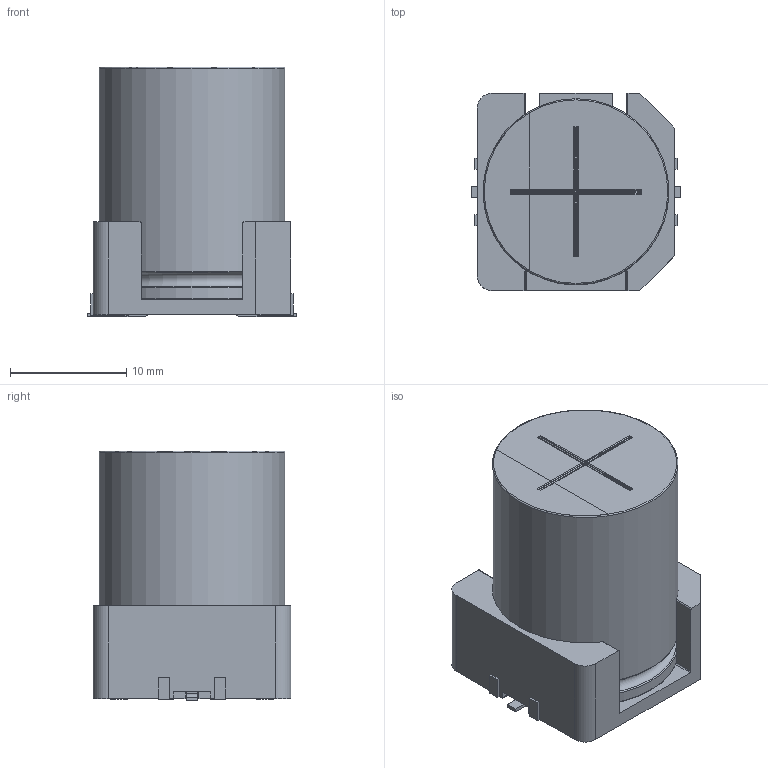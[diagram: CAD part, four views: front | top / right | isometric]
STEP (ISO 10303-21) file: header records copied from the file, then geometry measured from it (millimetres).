
FILE_DESCRIPTION(/* description */ (''),/* implementation_level */ '2;1');
FILE_NAME(/* name */ 'φ16x21.5L_耐振品_1.stp',/* time_stamp */ '2019-05-21T10:45:40+09:00',/* author */ (''),/* organization */ (''),/* preprocessor_version */ 'ST-DEVELOPER v16.7',/* originating_system */ 'SIEMENS PLM Software NX 1851',/* authorisation */ '');
FILE_SCHEMA (('AUTOMOTIVE_DESIGN { 1 0 10303 214 3 1 1 1 }'));
Length unit declared in the file: millimetre
Products named in the file (1): 16x21.5
Bounding box: 18 x 17 x 21.5 mm (x, y, z)
Volume: 4731.3 mm3; surface area: 2815.2 mm2
Topology: 9 solids, 9 shells, 184 faces, 459 edges, 294 vertices
Faces by surface type: plane 120, cylinder 51, torus 5, sphere 4, bspline 4
Full cylindrical faces by diameter (mm): 1.5 x4, 16 x2
Entity records: 5545 total; most frequent: CARTESIAN_POINT 1107, DIRECTION 898, ORIENTED_EDGE 884, EDGE_CURVE 442, LINE 332, VECTOR 332, VERTEX_POINT 292, AXIS2_PLACEMENT_3D 283
